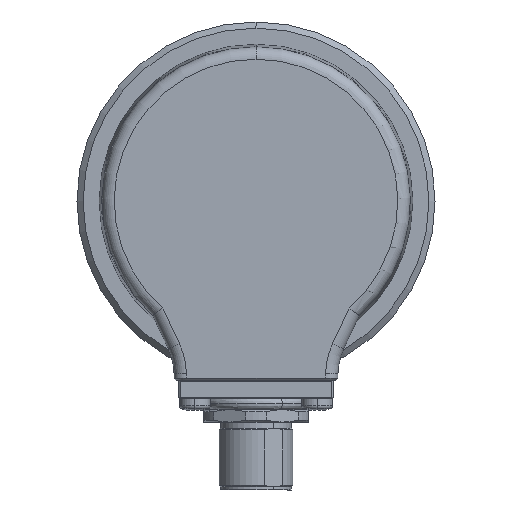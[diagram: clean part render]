
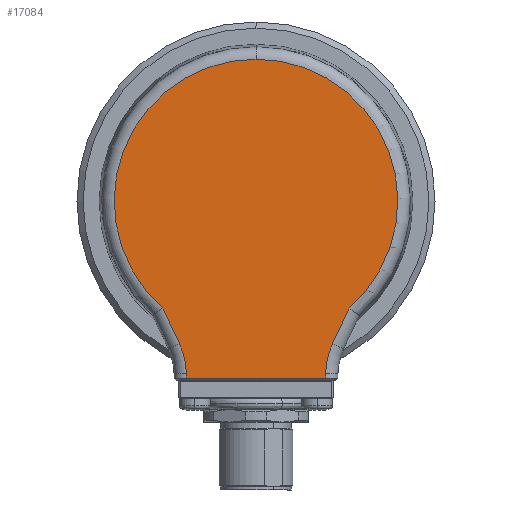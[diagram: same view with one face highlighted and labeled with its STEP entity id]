
A CAD part, left-side view. The second image highlights one B-rep face of the part: STEP entity #17084.
In plain terms, the highlighted planar face has unit normal (-1, 0, 0).
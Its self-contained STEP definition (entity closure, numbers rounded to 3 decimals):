
#84 = EDGE_CURVE ( 'NONE', #9996, #4856, #19148, .T. ) ;
#551 = LINE ( 'NONE', #13398, #1028 ) ;
#689 = CARTESIAN_POINT ( 'NONE',  ( -21., -11.255, -28.695 ) ) ;
#709 = DIRECTION ( 'NONE',  ( 0., 0., 1. ) ) ;
#836 = VERTEX_POINT ( 'NONE', #5196 ) ;
#881 = CARTESIAN_POINT ( 'NONE',  ( -21., -15.091, -17.32 ) ) ;
#1028 = VECTOR ( 'NONE', #1440, 1000. ) ;
#1099 = DIRECTION ( 'NONE',  ( 0., 0., 1. ) ) ;
#1123 = ORIENTED_EDGE ( 'NONE', *, *, #12041, .T. ) ;
#1440 = DIRECTION ( 'NONE',  ( 0., -0.017, -1. ) ) ;
#1998 = ORIENTED_EDGE ( 'NONE', *, *, #4206, .T. ) ;
#2503 = AXIS2_PLACEMENT_3D ( 'NONE', #16990, #7873, #18543 ) ;
#2955 = VECTOR ( 'NONE', #14734, 1000. ) ;
#3451 = FACE_OUTER_BOUND ( 'NONE', #4096, .T. ) ;
#3556 = LINE ( 'NONE', #19360, #8540 ) ;
#3861 = EDGE_CURVE ( 'NONE', #4856, #9158, #11519, .T. ) ;
#4010 = CARTESIAN_POINT ( 'NONE',  ( -21., 12.39, -23.112 ) ) ;
#4096 = EDGE_LOOP ( 'NONE', ( #1123, #19629, #15369, #7012, #1998, #17202, #9762, #12663, #11696 ) ) ;
#4102 = CARTESIAN_POINT ( 'NONE',  ( -21., -11.752, -0.205 ) ) ;
#4110 = DIRECTION ( 'NONE',  ( 0., -0.423, 0.906 ) ) ;
#4137 = LINE ( 'NONE', #4010, #8653 ) ;
#4206 = EDGE_CURVE ( 'NONE', #9158, #6321, #19357, .T. ) ;
#4288 = AXIS2_PLACEMENT_3D ( 'NONE', #17590, #8475, #19134 ) ;
#4570 = EDGE_CURVE ( 'NONE', #16914, #19121, #14571, .T. ) ;
#4856 = VERTEX_POINT ( 'NONE', #13057 ) ;
#4945 = DIRECTION ( 'NONE',  ( -1., 0., 0. ) ) ;
#5196 = CARTESIAN_POINT ( 'NONE',  ( -21., 0., 22.972 ) ) ;
#5477 = CARTESIAN_POINT ( 'NONE',  ( -21., 11.255, -28.695 ) ) ;
#5620 = PLANE ( 'NONE',  #10441 ) ;
#6321 = VERTEX_POINT ( 'NONE', #881 ) ;
#6430 = EDGE_CURVE ( 'NONE', #9504, #9996, #3556, .T. ) ;
#7012 = ORIENTED_EDGE ( 'NONE', *, *, #3861, .T. ) ;
#7367 = CARTESIAN_POINT ( 'NONE',  ( -21., -12.39, -23.112 ) ) ;
#7557 = CARTESIAN_POINT ( 'NONE',  ( -21., 11.268, -27.974 ) ) ;
#7873 = DIRECTION ( 'NONE',  ( -1., 0., 0. ) ) ;
#8475 = DIRECTION ( 'NONE',  ( 1., 0., 0. ) ) ;
#8515 = DIRECTION ( 'NONE',  ( 0., -0.423, -0.906 ) ) ;
#8540 = VECTOR ( 'NONE', #8695, 1000. ) ;
#8653 = VECTOR ( 'NONE', #8515, 1000. ) ;
#8695 = DIRECTION ( 'NONE',  ( 0., -1., 0. ) ) ;
#9158 = VERTEX_POINT ( 'NONE', #7367 ) ;
#9270 = AXIS2_PLACEMENT_3D ( 'NONE', #18965, #9807, #709 ) ;
#9504 = VERTEX_POINT ( 'NONE', #5477 ) ;
#9762 = ORIENTED_EDGE ( 'NONE', *, *, #13792, .T. ) ;
#9790 = CARTESIAN_POINT ( 'NONE',  ( -21., 12.39, -23.112 ) ) ;
#9807 = DIRECTION ( 'NONE',  ( 1., 0., 0. ) ) ;
#9996 = VERTEX_POINT ( 'NONE', #689 ) ;
#10168 = EDGE_CURVE ( 'NONE', #12502, #16914, #4137, .T. ) ;
#10196 = DIRECTION ( 'NONE',  ( 1., 0., 0. ) ) ;
#10441 = AXIS2_PLACEMENT_3D ( 'NONE', #13176, #10196, #1099 ) ;
#10739 = CIRCLE ( 'NONE', #2503, 22.972 ) ;
#10790 = VECTOR ( 'NONE', #4110, 1000. ) ;
#11106 = AXIS2_PLACEMENT_3D ( 'NONE', #14027, #4945, #15580 ) ;
#11519 = CIRCLE ( 'NONE', #4288, 12. ) ;
#11696 = ORIENTED_EDGE ( 'NONE', *, *, #4570, .T. ) ;
#12041 = EDGE_CURVE ( 'NONE', #19121, #9504, #551, .T. ) ;
#12502 = VERTEX_POINT ( 'NONE', #14296 ) ;
#12663 = ORIENTED_EDGE ( 'NONE', *, *, #10168, .T. ) ;
#13057 = CARTESIAN_POINT ( 'NONE',  ( -21., -11.268, -27.974 ) ) ;
#13176 = CARTESIAN_POINT ( 'NONE',  ( -21., 0., 0. ) ) ;
#13398 = CARTESIAN_POINT ( 'NONE',  ( -21., 11.752, -0.205 ) ) ;
#13792 = EDGE_CURVE ( 'NONE', #836, #12502, #10739, .T. ) ;
#14027 = CARTESIAN_POINT ( 'NONE',  ( -21., 0., 0. ) ) ;
#14296 = CARTESIAN_POINT ( 'NONE',  ( -21., 15.091, -17.32 ) ) ;
#14571 = CIRCLE ( 'NONE', #9270, 12. ) ;
#14734 = DIRECTION ( 'NONE',  ( 0., -0.017, 1. ) ) ;
#15369 = ORIENTED_EDGE ( 'NONE', *, *, #84, .T. ) ;
#15580 = DIRECTION ( 'NONE',  ( 0., 0., 1. ) ) ;
#16914 = VERTEX_POINT ( 'NONE', #9790 ) ;
#16990 = CARTESIAN_POINT ( 'NONE',  ( -21., 0., 0. ) ) ;
#17084 = ADVANCED_FACE ( 'NONE', ( #3451 ), #5620, .F. ) ;
#17202 = ORIENTED_EDGE ( 'NONE', *, *, #17345, .T. ) ;
#17345 = EDGE_CURVE ( 'NONE', #6321, #836, #19399, .T. ) ;
#17590 = CARTESIAN_POINT ( 'NONE',  ( -21., -23.266, -28.183 ) ) ;
#18543 = DIRECTION ( 'NONE',  ( 0., 0., 1. ) ) ;
#18965 = CARTESIAN_POINT ( 'NONE',  ( -21., 23.266, -28.183 ) ) ;
#19121 = VERTEX_POINT ( 'NONE', #7557 ) ;
#19134 = DIRECTION ( 'NONE',  ( 0., 0., 1. ) ) ;
#19148 = LINE ( 'NONE', #4102, #2955 ) ;
#19357 = LINE ( 'NONE', #19358, #10790 ) ;
#19358 = CARTESIAN_POINT ( 'NONE',  ( -21., -14.953, -17.615 ) ) ;
#19360 = CARTESIAN_POINT ( 'NONE',  ( -21., -11.25, -28.695 ) ) ;
#19399 = CIRCLE ( 'NONE', #11106, 22.972 ) ;
#19629 = ORIENTED_EDGE ( 'NONE', *, *, #6430, .T. ) ;
